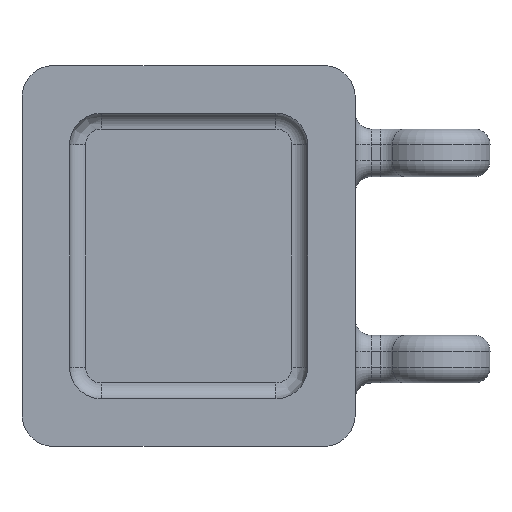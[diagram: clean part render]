
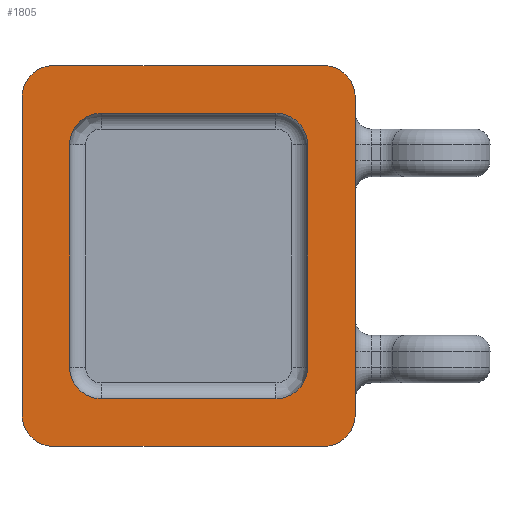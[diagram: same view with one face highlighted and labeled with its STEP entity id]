
A CAD part, front view. The second image highlights one B-rep face of the part: STEP entity #1805.
In plain terms, the highlighted planar face has unit normal (0, -1, 0).
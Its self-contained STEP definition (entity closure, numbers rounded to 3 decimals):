
#2=CARTESIAN_POINT('',(8.5,0.,-10.));
#3=DIRECTION('',(0.,-1.,0.));
#4=DIRECTION('',(0.,0.,-1.));
#5=AXIS2_PLACEMENT_3D('',#2,#3,#4);
#7=DIRECTION('',(-1.,0.,0.));
#8=VECTOR('',#7,17.);
#9=CARTESIAN_POINT('',(8.5,0.,-12.));
#10=LINE('',#9,#8);
#11=CARTESIAN_POINT('',(-8.5,0.,-10.));
#12=DIRECTION('',(0.,-1.,0.));
#13=DIRECTION('',(-1.,0.,0.));
#14=AXIS2_PLACEMENT_3D('',#11,#12,#13);
#16=DIRECTION('',(0.,0.,1.));
#17=VECTOR('',#16,20.);
#18=CARTESIAN_POINT('',(-10.5,0.,-10.));
#19=LINE('',#18,#17);
#20=CARTESIAN_POINT('',(-8.5,0.,10.));
#21=DIRECTION('',(0.,-1.,0.));
#22=DIRECTION('',(0.,0.,1.));
#23=AXIS2_PLACEMENT_3D('',#20,#21,#22);
#25=DIRECTION('',(1.,0.,0.));
#26=VECTOR('',#25,17.);
#27=CARTESIAN_POINT('',(-8.5,0.,12.));
#28=LINE('',#27,#26);
#29=CARTESIAN_POINT('',(8.5,0.,10.));
#30=DIRECTION('',(0.,-1.,0.));
#31=DIRECTION('',(1.,0.,0.));
#32=AXIS2_PLACEMENT_3D('',#29,#30,#31);
#34=DIRECTION('',(0.,0.,-1.));
#35=VECTOR('',#34,20.);
#36=CARTESIAN_POINT('',(10.5,0.,10.));
#37=LINE('',#36,#35);
#38=CARTESIAN_POINT('',(-5.5,0.,-7.));
#39=DIRECTION('',(0.,1.,0.));
#40=DIRECTION('',(0.,0.,-1.));
#41=AXIS2_PLACEMENT_3D('',#38,#39,#40);
#43=DIRECTION('',(-1.,0.,0.));
#44=VECTOR('',#43,11.);
#45=CARTESIAN_POINT('',(5.5,0.,-9.));
#46=LINE('',#45,#44);
#47=CARTESIAN_POINT('',(5.5,0.,-7.));
#48=DIRECTION('',(0.,1.,0.));
#49=DIRECTION('',(1.,0.,0.));
#50=AXIS2_PLACEMENT_3D('',#47,#48,#49);
#52=DIRECTION('',(0.,0.,-1.));
#53=VECTOR('',#52,14.);
#54=CARTESIAN_POINT('',(7.5,0.,7.));
#55=LINE('',#54,#53);
#56=CARTESIAN_POINT('',(5.5,0.,7.));
#57=DIRECTION('',(0.,1.,0.));
#58=DIRECTION('',(0.,0.,1.));
#59=AXIS2_PLACEMENT_3D('',#56,#57,#58);
#61=DIRECTION('',(1.,0.,0.));
#62=VECTOR('',#61,11.);
#63=CARTESIAN_POINT('',(-5.5,0.,9.));
#64=LINE('',#63,#62);
#65=CARTESIAN_POINT('',(-5.5,0.,7.));
#66=DIRECTION('',(0.,1.,0.));
#67=DIRECTION('',(-1.,0.,0.));
#68=AXIS2_PLACEMENT_3D('',#65,#66,#67);
#70=DIRECTION('',(0.,0.,1.));
#71=VECTOR('',#70,14.);
#72=CARTESIAN_POINT('',(-7.5,0.,-7.));
#73=LINE('',#72,#71);
#1534=CARTESIAN_POINT('',(8.5,0.,-12.));
#1535=CARTESIAN_POINT('',(10.5,0.,-10.));
#1536=VERTEX_POINT('',#1534);
#1537=VERTEX_POINT('',#1535);
#1538=CARTESIAN_POINT('',(-10.5,0.,-10.));
#1539=CARTESIAN_POINT('',(-8.5,0.,-12.));
#1540=VERTEX_POINT('',#1538);
#1541=VERTEX_POINT('',#1539);
#1542=CARTESIAN_POINT('',(-8.5,0.,12.));
#1543=CARTESIAN_POINT('',(-10.5,0.,10.));
#1544=VERTEX_POINT('',#1542);
#1545=VERTEX_POINT('',#1543);
#1546=CARTESIAN_POINT('',(10.5,0.,10.));
#1547=CARTESIAN_POINT('',(8.5,0.,12.));
#1548=VERTEX_POINT('',#1546);
#1549=VERTEX_POINT('',#1547);
#1736=CARTESIAN_POINT('',(-5.5,0.,-9.));
#1737=CARTESIAN_POINT('',(-7.5,0.,-7.));
#1738=VERTEX_POINT('',#1736);
#1739=VERTEX_POINT('',#1737);
#1742=CARTESIAN_POINT('',(-7.5,0.,7.));
#1743=VERTEX_POINT('',#1742);
#1746=CARTESIAN_POINT('',(-5.5,0.,9.));
#1747=VERTEX_POINT('',#1746);
#1750=CARTESIAN_POINT('',(5.5,0.,9.));
#1751=VERTEX_POINT('',#1750);
#1754=CARTESIAN_POINT('',(7.5,0.,7.));
#1755=VERTEX_POINT('',#1754);
#1758=CARTESIAN_POINT('',(7.5,0.,-7.));
#1759=VERTEX_POINT('',#1758);
#1762=CARTESIAN_POINT('',(5.5,0.,-9.));
#1763=VERTEX_POINT('',#1762);
#1764=CARTESIAN_POINT('',(0.,0.,0.));
#1765=DIRECTION('',(0.,1.,0.));
#1766=DIRECTION('',(1.,0.,0.));
#1767=AXIS2_PLACEMENT_3D('',#1764,#1765,#1766);
#1768=PLANE('',#1767);
#1770=ORIENTED_EDGE('',*,*,#1769,.F.);
#1772=ORIENTED_EDGE('',*,*,#1771,.T.);
#1774=ORIENTED_EDGE('',*,*,#1773,.F.);
#1776=ORIENTED_EDGE('',*,*,#1775,.T.);
#1778=ORIENTED_EDGE('',*,*,#1777,.F.);
#1780=ORIENTED_EDGE('',*,*,#1779,.T.);
#1782=ORIENTED_EDGE('',*,*,#1781,.F.);
#1784=ORIENTED_EDGE('',*,*,#1783,.T.);
#1785=EDGE_LOOP('',(#1770,#1772,#1774,#1776,#1778,#1780,#1782,#1784));
#1786=FACE_OUTER_BOUND('',#1785,.F.);
#1788=ORIENTED_EDGE('',*,*,#1787,.F.);
#1790=ORIENTED_EDGE('',*,*,#1789,.F.);
#1792=ORIENTED_EDGE('',*,*,#1791,.F.);
#1794=ORIENTED_EDGE('',*,*,#1793,.F.);
#1796=ORIENTED_EDGE('',*,*,#1795,.F.);
#1798=ORIENTED_EDGE('',*,*,#1797,.F.);
#1800=ORIENTED_EDGE('',*,*,#1799,.F.);
#1802=ORIENTED_EDGE('',*,*,#1801,.F.);
#1803=EDGE_LOOP('',(#1788,#1790,#1792,#1794,#1796,#1798,#1800,#1802));
#1804=FACE_BOUND('',#1803,.F.);
#1805=ADVANCED_FACE('',(#1786,#1804),#1768,.F.);
#6=CIRCLE('',#5,2.);
#15=CIRCLE('',#14,2.);
#24=CIRCLE('',#23,2.);
#33=CIRCLE('',#32,2.);
#42=CIRCLE('',#41,2.);
#51=CIRCLE('',#50,2.);
#60=CIRCLE('',#59,2.);
#69=CIRCLE('',#68,2.);
#1769=EDGE_CURVE('',#1536,#1537,#6,.T.);
#1771=EDGE_CURVE('',#1536,#1541,#10,.T.);
#1773=EDGE_CURVE('',#1540,#1541,#15,.T.);
#1775=EDGE_CURVE('',#1540,#1545,#19,.T.);
#1777=EDGE_CURVE('',#1544,#1545,#24,.T.);
#1779=EDGE_CURVE('',#1544,#1549,#28,.T.);
#1781=EDGE_CURVE('',#1548,#1549,#33,.T.);
#1783=EDGE_CURVE('',#1548,#1537,#37,.T.);
#1787=EDGE_CURVE('',#1738,#1739,#42,.T.);
#1789=EDGE_CURVE('',#1763,#1738,#46,.T.);
#1791=EDGE_CURVE('',#1759,#1763,#51,.T.);
#1793=EDGE_CURVE('',#1755,#1759,#55,.T.);
#1795=EDGE_CURVE('',#1751,#1755,#60,.T.);
#1797=EDGE_CURVE('',#1747,#1751,#64,.T.);
#1799=EDGE_CURVE('',#1743,#1747,#69,.T.);
#1801=EDGE_CURVE('',#1739,#1743,#73,.T.);
